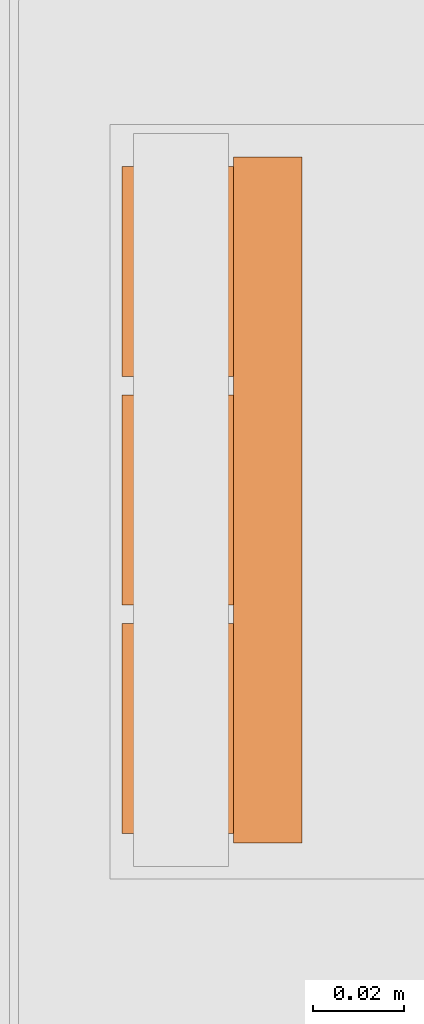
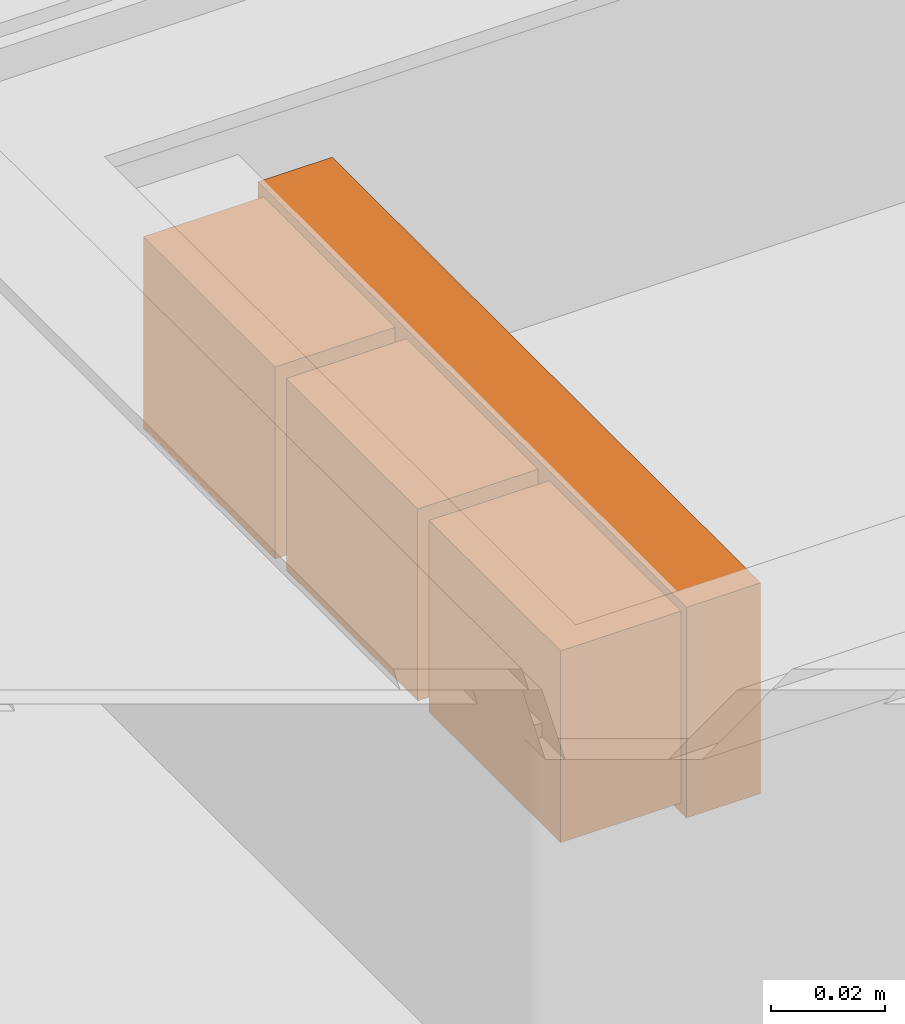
# One storey, part 75 of 87: 1 proxy.
"""IFC2X3 building model written with IfcOpenShell, lengths in millimetres."""

import ifcopenshell
import ifcopenshell.guid

model = None  # the IFC model being written
_history = None  # IfcOwnerHistory: only IFC2X3 demands one
_inside = {}  # id of a spatial element -> (the spatial element, [elements in it])
_under = {}  # id of a project, library or spatial element -> (it, [spatial elements below it])
_declared = {}  # id of a project -> (the project, [libraries it declares])
_typed = {}  # id of a type object -> (the type object, [elements of that type])
_made_of = {}  # id of a material, layer set ... -> (it, [elements and type objects made of it])


def new_model(schema):
    """Start an empty IFC model of exactly this schema.

    Asked for "IFC4X3", IfcOpenShell would pick the latest addendum, in which some entities
    have other attributes; the version numbers below select the first issue.
    IFC2X3 requires an IfcOwnerHistory on every rooted entity: one is made here for all.
    """
    global model, _history
    if schema == "IFC4X3":
        model = ifcopenshell.file(schema_version=(4, 3, 0, 0))
    else:
        model = ifcopenshell.file(schema=schema)
    _inside.clear()
    _under.clear()
    _declared.clear()
    _typed.clear()
    _made_of.clear()
    _history = None
    if model.schema == "IFC2X3":
        org = make("IfcOrganization", Name="unknown")
        user = make(
            "IfcPersonAndOrganization",
            ThePerson=make("IfcPerson", FamilyName="unknown"),
            TheOrganization=org,
        )
        app = make(
            "IfcApplication",
            ApplicationDeveloper=org,
            Version="unknown",
            ApplicationFullName="unknown",
            ApplicationIdentifier="unknown",
        )
        _history = make(
            "IfcOwnerHistory",
            OwningUser=user,
            OwningApplication=app,
            ChangeAction="ADDED",
            CreationDate=0,
        )
    return model


def make(cls, **values):
    """One entity of the class cls with the attributes given. An attribute that is None is left unset."""
    return model.create_entity(
        cls, **{name: value for name, value in values.items() if value is not None}
    )


def entity(cls, *values):
    """Any entity or typed value of the class cls, its attributes in the order of the schema. None: left unset."""
    e = model.create_entity(cls)
    for i, value in enumerate(values):
        if value is not None:
            e[i] = value
    return e


def rooted(cls, **values):
    """An entity with a GlobalId (a new one), such as an element, a storey or a relation."""
    return make(cls, GlobalId=ifcopenshell.guid.new(), OwnerHistory=_history, **values)


def si_unit(unit_type, name, prefix=None):
    """IfcSIUnit, for example si_unit("LENGTHUNIT", "METRE", prefix="MILLI")."""
    return make("IfcSIUnit", UnitType=unit_type, Prefix=prefix, Name=name)


def converted_unit(unit_type, name, factor, base, dimensions=None, offset=None):
    """IfcConversionBasedUnit, such as the inch: factor (a typed value) times the base unit."""
    return make(
        "IfcConversionBasedUnit"
        if offset is None
        else "IfcConversionBasedUnitWithOffset",
        ConversionOffset=offset,
        Dimensions=None
        if dimensions is None
        else entity("IfcDimensionalExponents", *dimensions),
        UnitType=unit_type,
        Name=name,
        ConversionFactor=make(
            "IfcMeasureWithUnit", ValueComponent=factor, UnitComponent=base
        ),
    )


def derived_unit(unit_type, elements):
    """IfcDerivedUnit: a product of units, each with its exponent."""
    return make(
        "IfcDerivedUnit",
        Elements=[
            make("IfcDerivedUnitElement", Unit=unit, Exponent=power)
            for unit, power in elements
        ],
        UnitType=unit_type,
    )


def assignment(units):
    """IfcUnitAssignment: the units of a project."""
    return None if units is None else make("IfcUnitAssignment", Units=units)


def point(xyz):
    """IfcCartesianPoint."""
    return None if xyz is None else make("IfcCartesianPoint", Coordinates=xyz)


def direction(xyz):
    """IfcDirection."""
    return None if xyz is None else make("IfcDirection", DirectionRatios=xyz)


def frame(location, z_axis=None, x_axis=None):
    """IfcAxis2Placement3D, a coordinate frame: its origin and axes. An axis left out is left unset."""
    return make(
        "IfcAxis2Placement3D",
        Location=point(location),
        Axis=direction(z_axis),
        RefDirection=direction(x_axis),
    )


def origin():
    """The frame at (0, 0, 0) with its axes left unset."""
    return frame((0.0, 0.0, 0.0))


def place(relative_to, where):
    """IfcLocalPlacement: puts the frame where relative to a parent placement (None: the world)."""
    return make(
        "IfcLocalPlacement", PlacementRelTo=relative_to, RelativePlacement=where
    )


def context(
    kind, dimensions, precision=None, world=None, true_north=None, identifier=None
):
    """IfcGeometricRepresentationContext, for example the 3D "Model" context."""
    return make(
        "IfcGeometricRepresentationContext",
        ContextIdentifier=identifier,
        ContextType=kind,
        CoordinateSpaceDimension=dimensions,
        Precision=precision,
        WorldCoordinateSystem=world,
        TrueNorth=true_north,
    )


def subcontext(parent, identifier, kind, view, scale=None):
    """IfcGeometricRepresentationSubContext, for example "Body" below "Model"."""
    return make(
        "IfcGeometricRepresentationSubContext",
        ContextIdentifier=identifier,
        ContextType=kind,
        ParentContext=parent,
        TargetScale=scale,
        TargetView=view,
    )


def project(units=None, contexts=None):
    """IfcProject with its units and contexts."""
    return rooted(
        "IfcProject",
        Name="project",
        RepresentationContexts=contexts,
        UnitsInContext=assignment(units),
    )


def spatial(cls, under=None, at=None, **own):
    """A site, building, storey or space (cls), placed at a placement, below another one or the project."""
    s = rooted(cls, ObjectPlacement=at, **own)
    if under is not None:
        _under.setdefault(under.id(), (under, []))[1].append(s)
    return s


def faces_of(points, faces, orient=None, outer=None):
    """IfcFace entities. A face is a list of loops; a loop is a list of indices into points, from 0.

    orient and outer hold one flag for each loop. By default every Orientation is true, the
    first loop of a face is its IfcFaceOuterBound and the others are IfcFaceBound.
    """
    made = []
    for i, loops in enumerate(faces):
        bounds = []
        for j, loop in enumerate(loops):
            is_outer = j == 0 if outer is None else outer[i][j]
            bounds.append(
                make(
                    "IfcFaceOuterBound" if is_outer else "IfcFaceBound",
                    Bound=make("IfcPolyLoop", Polygon=[points[k] for k in loop]),
                    Orientation=True if orient is None else orient[i][j],
                )
            )
        made.append(make("IfcFace", Bounds=bounds))
    return made


def faceted_brep(points, faces, orient=None, outer=None, voids=None):
    """IfcFacetedBrep: a solid bounded by flat faces; with voids (closed shells), ...WithVoids."""
    shared = [point(p) for p in points]
    hull = make("IfcClosedShell", CfsFaces=faces_of(shared, faces, orient, outer))
    if voids is None:
        return make("IfcFacetedBrep", Outer=hull)
    return make(
        "IfcFacetedBrepWithVoids",
        Outer=hull,
        Voids=[
            make(cls, CfsFaces=faces_of(shared, fs, o, b)) for cls, fs, o, b in voids
        ],
    )


def shape(context_of_items, identifier, shape_type, items):
    """IfcShapeRepresentation: the items that make up one representation, for example the "Body"."""
    return make(
        "IfcShapeRepresentation",
        ContextOfItems=context_of_items,
        RepresentationIdentifier=identifier,
        RepresentationType=shape_type,
        Items=items,
    )


def source(mapping_origin, context_of_items, identifier, shape_type, items):
    """IfcRepresentationMap: a shape defined once, which mapped items show again and again."""
    return make(
        "IfcRepresentationMap",
        MappingOrigin=mapping_origin,
        MappedRepresentation=shape(context_of_items, identifier, shape_type, items),
    )


def transform(
    local_origin,
    x_axis=None,
    y_axis=None,
    z_axis=None,
    scale=None,
    scale2=None,
    scale3=None,
    uniform=True,
):
    """IfcCartesianTransformationOperator3D, or its non-uniform kind. x_axis, y_axis, z_axis: its Axis1, 2, 3."""
    if uniform:
        return make(
            "IfcCartesianTransformationOperator3D",
            Axis1=direction(x_axis),
            Axis2=direction(y_axis),
            LocalOrigin=point(local_origin),
            Scale=scale,
            Axis3=direction(z_axis),
        )
    return make(
        "IfcCartesianTransformationOperator3DnonUniform",
        Axis1=direction(x_axis),
        Axis2=direction(y_axis),
        LocalOrigin=point(local_origin),
        Scale=scale,
        Axis3=direction(z_axis),
        Scale2=scale2,
        Scale3=scale3,
    )


def mapped(mapping_source, mapping_target):
    """IfcMappedItem: shows the shape of a source again, moved by a transform."""
    return make(
        "IfcMappedItem", MappingSource=mapping_source, MappingTarget=mapping_target
    )


def made_of(thing, what):
    """Note that an element or type object is made of a material, layer set ...; save() writes the relation."""
    if what is not None:
        _made_of.setdefault(what.id(), (what, []))[1].append(thing)
    return thing


def type_object(cls, material=None, **own):
    """A type object (cls), such as IfcWallType, which elements share."""
    return made_of(rooted(cls, **own), material)


def type_shapes(of_type, sources):
    """Give a type object the sources (RepresentationMaps) that its elements show as mapped items."""
    of_type.RepresentationMaps = sources


def element(
    cls,
    number,
    at=None,
    inside=None,
    cuts=None,
    type_object=None,
    material=None,
    context=None,
    identifier="Body",
    shape_type=None,
    held_by="IfcProductDefinitionShape",
    body=None,
    shapes=None,
    **own,
):
    """One element of the class cls, such as IfcWall. Its Tag is "e" and its number.

    at: its placement. inside: the storey or other place that contains it. cuts: it is an
    opening in that element (IfcRelVoidsElement). A single representation is given by context,
    identifier, shape_type and body (its items); several are given by shapes. held_by: the class
    of the entity that holds the representations. save() writes the other relations.
    """
    e = rooted(cls, Tag="e%d" % number, ObjectPlacement=at, **own)
    if body is not None:
        shapes = [shape(context, identifier, shape_type, body)]
    if shapes is not None:
        e.Representation = make(held_by, Representations=shapes)
    if inside is not None:
        _inside.setdefault(inside.id(), (inside, []))[1].append(e)
    if cuts is not None:
        rooted(
            "IfcRelVoidsElement", RelatingBuildingElement=cuts, RelatedOpeningElement=e
        )
    if type_object is not None:
        _typed.setdefault(type_object.id(), (type_object, []))[1].append(e)
    return made_of(e, material)


def aggregate(whole, parts):
    """IfcRelAggregates: a whole, such as a stair, and the parts it consists of."""
    return rooted("IfcRelAggregates", RelatingObject=whole, RelatedObjects=parts)


def save(model, path):
    """Write the relations noted so far, then the file.

    IfcRelAggregates (storeys below a building ...), IfcRelContainedInSpatialStructure (elements
    in a storey), IfcRelDefinesByType, IfcRelAssociatesMaterial and IfcRelDeclares: one each for
    every whole, place, type object, material and project.
    """
    for whole, parts in _under.values():
        aggregate(whole, parts)
    for where, things in _inside.values():
        rooted(
            "IfcRelContainedInSpatialStructure",
            RelatedElements=things,
            RelatingStructure=where,
        )
    for kind, things in _typed.values():
        rooted("IfcRelDefinesByType", RelatedObjects=things, RelatingType=kind)
    for what, things in _made_of.values():
        rooted("IfcRelAssociatesMaterial", RelatedObjects=things, RelatingMaterial=what)
    for by, libraries in _declared.values():
        rooted("IfcRelDeclares", RelatingContext=by, RelatedDefinitions=libraries)
    model.write(path)


model = new_model("IFC2X3")

# Units and contexts
model_context = context("Model", 3, precision=0.01, world=origin(), true_north=direction((6.12303176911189e-17, 1.0)))
body_context = subcontext(model_context, "Body", "Model", "MODEL_VIEW")
ifc_project = project(units=[si_unit("LENGTHUNIT", "METRE", prefix="MILLI"), si_unit("AREAUNIT", "SQUARE_METRE"), si_unit("VOLUMEUNIT", "CUBIC_METRE"), converted_unit("PLANEANGLEUNIT", "DEGREE", entity("IfcRatioMeasure", 0.0174532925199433), si_unit("PLANEANGLEUNIT", "RADIAN"), dimensions=[0, 0, 0, 0, 0, 0, 0]), si_unit("MASSUNIT", "GRAM", prefix="KILO"), derived_unit("MASSDENSITYUNIT", [(si_unit("MASSUNIT", "GRAM", prefix="KILO"), 1), (si_unit("LENGTHUNIT", "METRE"), -3)]), si_unit("TIMEUNIT", "SECOND"), si_unit("FREQUENCYUNIT", "HERTZ"), si_unit("THERMODYNAMICTEMPERATUREUNIT", "DEGREE_CELSIUS"), derived_unit("THERMALTRANSMITTANCEUNIT", [(si_unit("MASSUNIT", "GRAM", prefix="KILO"), 1), (si_unit("THERMODYNAMICTEMPERATUREUNIT", "KELVIN"), -1), (si_unit("TIMEUNIT", "SECOND"), -3)]), derived_unit("VOLUMETRICFLOWRATEUNIT", [(si_unit("LENGTHUNIT", "METRE"), 3), (si_unit("TIMEUNIT", "SECOND"), -1)]), si_unit("ELECTRICCURRENTUNIT", "AMPERE"), si_unit("ELECTRICVOLTAGEUNIT", "VOLT"), si_unit("POWERUNIT", "WATT"), si_unit("FORCEUNIT", "NEWTON", prefix="KILO"), si_unit("ILLUMINANCEUNIT", "LUX"), si_unit("LUMINOUSFLUXUNIT", "LUMEN"), si_unit("LUMINOUSINTENSITYUNIT", "CANDELA"), derived_unit("USERDEFINED", [(si_unit("MASSUNIT", "GRAM", prefix="KILO"), -1), (si_unit("LENGTHUNIT", "METRE"), -2), (si_unit("TIMEUNIT", "SECOND"), 3), (si_unit("LUMINOUSFLUXUNIT", "LUMEN"), 1)]), derived_unit("LINEARVELOCITYUNIT", [(si_unit("LENGTHUNIT", "METRE"), 1), (si_unit("TIMEUNIT", "SECOND"), -1)]), si_unit("PRESSUREUNIT", "PASCAL"), derived_unit("USERDEFINED", [(si_unit("LENGTHUNIT", "METRE"), -2), (si_unit("MASSUNIT", "GRAM", prefix="KILO"), 1), (si_unit("TIMEUNIT", "SECOND"), -2)])], contexts=[model_context])

# Site, building, storey
site_placement = place(None, origin())
site = spatial("IfcSite", under=ifc_project, at=site_placement, Name="Default", CompositionType="ELEMENT")
building_placement = place(site_placement, origin())
building = spatial("IfcBuilding", under=site, at=building_placement, Name="Наименование здания", CompositionType="ELEMENT")
storey_placement = place(building_placement, origin())
storey = spatial("IfcBuildingStorey", under=building, at=storey_placement, Name="Этаж 01", CompositionType="ELEMENT", Elevation=0.0)

# Proxy
building_element_proxy_type = type_object("IfcBuildingElementProxyType", Name="Белый", PredefinedType="NOTDEFINED")
shared_shape = source(origin(), body_context, "Body", "Brep", [
    faceted_brep([(56.4897193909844, -10.5732864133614, 0.0), (59.5230890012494, -10.5732864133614, -3.03336961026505), (62.5564586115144, -10.5732864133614, 0.0), (59.5230890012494, -10.5732864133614, 3.03336961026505), (37.4435413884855, -10.5732864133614, 0.0), (40.4769109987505, -10.5732864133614, -3.03336961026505), (43.5102806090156, -10.5732864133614, 0.0), (40.4769109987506, -10.5732864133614, 3.03336961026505), (59.5230890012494, -24.2999999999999, 3.03336961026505), (27.0, -24.2999999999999, 20.5000000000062), (40.4769109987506, -24.2999999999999, 3.03336961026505), (43.5102806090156, -24.2999999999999, 0.0), (73.0, -24.2999999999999, 20.5000000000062), (56.4897193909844, -24.2999999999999, 0.0), (62.5564586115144, -24.2999999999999, 0.0), (73.0, -24.2999999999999, -20.5000000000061), (59.5230890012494, -24.2999999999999, -3.03336961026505), (40.4769109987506, -24.2999999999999, -3.03336961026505), (27.0, -24.2999999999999, -20.5000000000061), (37.4435413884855, -24.2999999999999, 0.0), (73.0, 0.0, -20.5000000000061), (27.0, 0.0, -20.5000000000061), (27.0, 0.0, 20.5000000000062), (73.0, 0.0, 20.5000000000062)], [[[0, 1, 2, 3]], [[4, 5, 6, 7]], [[8, 9, 10]], [[8, 10, 11]], [[9, 8, 12]], [[8, 11, 13]], [[12, 8, 14]], [[14, 15, 12]], [[14, 16, 15]], [[11, 16, 13]], [[16, 11, 17]], [[17, 18, 16]], [[15, 16, 18]], [[19, 18, 17]], [[18, 19, 9]], [[10, 9, 19]], [[20, 21, 22, 23]], [[9, 12, 23, 22]], [[12, 15, 20, 23]], [[15, 18, 21, 20]], [[18, 9, 22, 21]], [[17, 5, 4, 19]], [[11, 6, 5, 17]], [[10, 7, 6, 11]], [[19, 4, 7, 10]], [[16, 1, 0, 13]], [[14, 2, 1, 16]], [[8, 3, 2, 14]], [[13, 0, 3, 8]]]),
    faceted_brep([(25.0, -39.2999999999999, 22.5000000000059), (37.1337260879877, -39.2999999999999, 15.31205393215), (41.0158322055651, -39.2999999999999, 17.868540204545), (33.9466036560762, -39.2999999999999, 11.9284729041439), (45.3832264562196, -39.2999999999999, 19.4598407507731), (50.0, -39.2999999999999, 20.0), (30.1036424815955, -39.2999999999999, 2.03345949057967), (30.0, -39.2999999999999, 0.0), (25.0, -39.2999999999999, -22.5000000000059), (75.0, -39.2999999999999, 22.5000000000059), (30.1036424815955, -39.2999999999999, -2.03345949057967), (33.9466036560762, -39.2999999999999, -11.9284729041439), (37.1337260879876, -39.2999999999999, -15.31205393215), (41.0158322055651, -39.2999999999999, -17.8685402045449), (45.3832264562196, -39.2999999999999, -19.4598407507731), (50.0, -39.2999999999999, -20.0), (75.0, -39.2999999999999, -22.5000000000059), (54.6167735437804, -39.2999999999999, -19.4598407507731), (58.9841677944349, -39.2999999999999, -17.8685402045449), (62.8662739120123, -39.2999999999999, -15.31205393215), (66.0533963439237, -39.2999999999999, -11.9284729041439), (69.8963575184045, -39.2999999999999, -2.03345949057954), (70.0, -39.2999999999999, 0.0), (54.6167735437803, -39.2999999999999, 19.4598407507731), (58.9841677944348, -39.2999999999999, 17.868540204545), (62.8662739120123, -39.2999999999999, 15.31205393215), (66.0533963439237, -39.2999999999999, 11.9284729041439), (69.8963575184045, -39.2999999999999, 2.03345949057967), (66.0533963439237, -39.2999999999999, -2.03345949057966), (33.9466036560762, -39.2999999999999, -2.03345949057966), (33.9466036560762, -39.2999999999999, 2.03345949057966), (66.0533963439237, -39.2999999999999, 2.03345949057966), (25.0, -24.2999999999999, -22.5000000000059), (37.1337260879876, -24.2999999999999, -15.31205393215), (41.0158322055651, -24.2999999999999, -17.8685402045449), (33.9466036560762, -24.2999999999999, -11.9284729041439), (45.3832264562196, -24.2999999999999, -19.4598407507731), (50.0, -24.2999999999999, -20.0), (30.1036424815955, -24.2999999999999, -2.03345949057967), (30.0, -24.2999999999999, 0.0), (25.0, -24.2999999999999, 22.5000000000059), (75.0, -24.2999999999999, -22.5000000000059), (30.1036424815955, -24.2999999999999, 2.03345949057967), (33.9466036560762, -24.2999999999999, 11.9284729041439), (37.1337260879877, -24.2999999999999, 15.31205393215), (41.0158322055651, -24.2999999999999, 17.868540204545), (45.3832264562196, -24.2999999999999, 19.4598407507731), (50.0, -24.2999999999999, 20.0), (75.0, -24.2999999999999, 22.5000000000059), (54.6167735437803, -24.2999999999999, 19.4598407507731), (58.9841677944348, -24.2999999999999, 17.868540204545), (62.8662739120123, -24.2999999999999, 15.31205393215), (66.0533963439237, -24.2999999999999, 11.9284729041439), (69.8963575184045, -24.2999999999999, 2.03345949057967), (70.0, -24.2999999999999, 0.0), (54.6167735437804, -24.2999999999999, -19.4598407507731), (58.9841677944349, -24.2999999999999, -17.8685402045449), (62.8662739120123, -24.2999999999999, -15.31205393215), (66.0533963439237, -24.2999999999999, -11.9284729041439), (69.8963575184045, -24.2999999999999, -2.03345949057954), (66.0533963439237, -24.2999999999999, 2.03345949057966), (33.9466036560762, -24.2999999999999, 2.03345949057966), (33.9466036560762, -24.2999999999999, -2.03345949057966), (66.0533963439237, -24.2999999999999, -2.03345949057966)], [[[0, 1, 2]], [[1, 0, 3]], [[2, 4, 0]], [[0, 4, 5]], [[6, 3, 0]], [[7, 6, 0]], [[0, 8, 7]], [[5, 9, 0]], [[10, 7, 8]], [[11, 10, 8]], [[11, 8, 12]], [[8, 13, 12]], [[13, 8, 14]], [[15, 14, 8]], [[8, 16, 15]], [[17, 15, 16]], [[18, 17, 16]], [[16, 19, 18]], [[19, 16, 20]], [[20, 16, 21]], [[22, 21, 16]], [[22, 16, 9]], [[5, 23, 9]], [[24, 9, 23]], [[9, 24, 25]], [[25, 26, 9]], [[26, 27, 9]], [[9, 27, 22]], [[28, 20, 21]], [[10, 11, 29]], [[30, 3, 6]], [[27, 26, 31]], [[32, 33, 34]], [[33, 32, 35]], [[34, 36, 32]], [[32, 36, 37]], [[38, 35, 32]], [[39, 38, 32]], [[32, 40, 39]], [[37, 41, 32]], [[42, 39, 40]], [[43, 42, 40]], [[43, 40, 44]], [[40, 45, 44]], [[45, 40, 46]], [[47, 46, 40]], [[40, 48, 47]], [[49, 47, 48]], [[50, 49, 48]], [[48, 51, 50]], [[51, 48, 52]], [[52, 48, 53]], [[54, 53, 48]], [[54, 48, 41]], [[37, 55, 41]], [[56, 41, 55]], [[41, 56, 57]], [[57, 58, 41]], [[58, 59, 41]], [[41, 59, 54]], [[60, 52, 53]], [[42, 43, 61]], [[62, 35, 38]], [[59, 58, 63]], [[0, 9, 48, 40]], [[9, 16, 41, 48]], [[16, 8, 32, 41]], [[8, 0, 40, 32]], [[1, 3, 43, 44]], [[44, 45, 2, 1]], [[2, 45, 46, 4]], [[47, 5, 4, 46]], [[24, 23, 49, 50]], [[25, 24, 50, 51]], [[26, 25, 51, 52]], [[23, 5, 47, 49]], [[3, 30, 61, 43]], [[29, 11, 35, 62]], [[30, 6, 42, 61]], [[27, 31, 60, 53]], [[39, 7, 10, 38]], [[42, 6, 7, 39]], [[10, 29, 62, 38]], [[28, 21, 59, 63]], [[19, 20, 58, 57]], [[57, 56, 18, 19]], [[18, 56, 55, 17]], [[37, 15, 17, 55]], [[13, 14, 36, 34]], [[34, 33, 12, 13]], [[12, 33, 35, 11]], [[14, 15, 37, 36]], [[20, 28, 63, 58]], [[31, 26, 52, 60]], [[54, 22, 27, 53]], [[59, 21, 22, 54]]]),
    faceted_brep([(-56.4897193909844, -10.5732864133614, 0.0), (-59.5230890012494, -10.5732864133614, 3.03336961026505), (-62.5564586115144, -10.5732864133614, 0.0), (-59.5230890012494, -10.5732864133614, -3.03336961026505), (-37.4435413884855, -10.5732864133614, 0.0), (-40.4769109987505, -10.5732864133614, 3.03336961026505), (-43.5102806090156, -10.5732864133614, 0.0), (-40.4769109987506, -10.5732864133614, -3.03336961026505), (-40.4769109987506, -24.2999999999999, 3.03336961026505), (-59.5230890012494, -24.2999999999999, 3.03336961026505), (-43.5102806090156, -24.2999999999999, 0.0), (-27.0, -24.2999999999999, 20.5000000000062), (-37.4435413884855, -24.2999999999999, 0.0), (-27.0, -24.2999999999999, -20.5000000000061), (-40.4769109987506, -24.2999999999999, -3.03336961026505), (-59.5230890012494, -24.2999999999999, -3.03336961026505), (-73.0, -24.2999999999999, -20.5000000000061), (-62.5564586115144, -24.2999999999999, 0.0), (-56.4897193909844, -24.2999999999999, 0.0), (-73.0, -24.2999999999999, 20.5000000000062), (-73.0, 0.0, -20.5000000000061), (-73.0, 0.0, 20.5000000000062), (-27.0, 0.0, 20.5000000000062), (-27.0, 0.0, -20.5000000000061)], [[[0, 1, 2, 3]], [[4, 5, 6, 7]], [[8, 9, 10]], [[9, 8, 11]], [[11, 8, 12]], [[12, 13, 11]], [[13, 12, 14]], [[15, 13, 14]], [[14, 10, 15]], [[16, 13, 15]], [[15, 17, 16]], [[15, 10, 18]], [[9, 19, 17]], [[16, 17, 19]], [[9, 11, 19]], [[10, 9, 18]], [[20, 21, 22, 23]], [[19, 11, 22, 21]], [[16, 19, 21, 20]], [[13, 16, 20, 23]], [[11, 13, 23, 22]], [[14, 7, 6, 10]], [[12, 4, 7, 14]], [[8, 5, 4, 12]], [[10, 6, 5, 8]], [[15, 3, 2, 17]], [[18, 0, 3, 15]], [[9, 1, 0, 18]], [[17, 2, 1, 9]]]),
    faceted_brep([(-25.0, -39.2999999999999, 22.5000000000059), (-33.9466036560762, -39.2999999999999, 11.9284729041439), (-30.1036424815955, -39.2999999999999, 2.03345949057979), (-37.1337260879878, -39.2999999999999, 15.3120539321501), (-30.0, -39.2999999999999, 0.0), (-41.0158322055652, -39.2999999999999, 17.868540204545), (-45.3832264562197, -39.2999999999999, 19.4598407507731), (-50.0, -39.2999999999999, 20.0), (-75.0, -39.2999999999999, 22.5000000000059), (-25.0, -39.2999999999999, -22.5000000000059), (-54.6167735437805, -39.2999999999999, 19.4598407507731), (-58.984167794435, -39.2999999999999, 17.8685402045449), (-62.8662739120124, -39.2999999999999, 15.31205393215), (-66.0533963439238, -39.2999999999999, 11.9284729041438), (-69.8963575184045, -39.2999999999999, 2.03345949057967), (-70.0, -39.2999999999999, 0.0), (-75.0, -39.2999999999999, -22.5000000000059), (-69.8963575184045, -39.2999999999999, -2.03345949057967), (-66.0533963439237, -39.2999999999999, -11.9284729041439), (-62.8662739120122, -39.2999999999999, -15.3120539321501), (-58.9841677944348, -39.2999999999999, -17.868540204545), (-54.6167735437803, -39.2999999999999, -19.4598407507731), (-50.0, -39.2999999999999, -20.0), (-30.1036424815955, -39.2999999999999, -2.03345949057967), (-33.9466036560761, -39.2999999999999, -11.9284729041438), (-37.1337260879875, -39.2999999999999, -15.3120539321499), (-41.015832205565, -39.2999999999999, -17.8685402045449), (-45.3832264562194, -39.2999999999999, -19.4598407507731), (-66.0533963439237, -39.2999999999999, -2.03345949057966), (-66.0533963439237, -39.2999999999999, 2.03345949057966), (-33.9466036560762, -39.2999999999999, 2.03345949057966), (-33.9466036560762, -39.2999999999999, -2.03345949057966), (-75.0, -24.2999999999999, 22.5000000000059), (-66.0533963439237, -24.2999999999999, 11.9284729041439), (-69.8963575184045, -24.2999999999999, 2.03345949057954), (-62.8662739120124, -24.2999999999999, 15.31205393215), (-70.0, -24.2999999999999, 0.0), (-58.984167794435, -24.2999999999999, 17.8685402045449), (-54.6167735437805, -24.2999999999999, 19.4598407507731), (-50.0, -24.2999999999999, 20.0), (-25.0, -24.2999999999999, 22.5000000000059), (-75.0, -24.2999999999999, -22.5000000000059), (-45.3832264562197, -24.2999999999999, 19.4598407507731), (-41.0158322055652, -24.2999999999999, 17.868540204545), (-37.1337260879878, -24.2999999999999, 15.3120539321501), (-33.9466036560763, -24.2999999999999, 11.928472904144), (-30.1036424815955, -24.2999999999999, 2.03345949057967), (-30.0, -24.2999999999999, 0.0), (-25.0, -24.2999999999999, -22.5000000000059), (-30.1036424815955, -24.2999999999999, -2.03345949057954), (-33.9466036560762, -24.2999999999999, -11.9284729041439), (-37.1337260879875, -24.2999999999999, -15.3120539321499), (-41.015832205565, -24.2999999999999, -17.8685402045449), (-45.3832264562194, -24.2999999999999, -19.4598407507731), (-50.0, -24.2999999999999, -20.0), (-69.8963575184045, -24.2999999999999, -2.03345949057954), (-66.0533963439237, -24.2999999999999, -11.928472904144), (-62.8662739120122, -24.2999999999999, -15.3120539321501), (-58.9841677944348, -24.2999999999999, -17.868540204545), (-54.6167735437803, -24.2999999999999, -19.4598407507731), (-33.9466036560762, -24.2999999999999, -2.03345949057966), (-33.9466036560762, -24.2999999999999, 2.03345949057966), (-66.0533963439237, -24.2999999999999, 2.03345949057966), (-66.0533963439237, -24.2999999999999, -2.03345949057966)], [[[0, 1, 2]], [[1, 0, 3]], [[0, 2, 4]], [[5, 3, 0]], [[6, 5, 0]], [[7, 6, 0]], [[0, 8, 7]], [[4, 9, 0]], [[10, 7, 8]], [[11, 10, 8]], [[11, 8, 12]], [[8, 13, 12]], [[13, 8, 14]], [[15, 14, 8]], [[8, 16, 15]], [[17, 15, 16]], [[16, 18, 17]], [[18, 16, 19]], [[20, 19, 16]], [[20, 16, 21]], [[22, 21, 16]], [[22, 16, 9]], [[4, 23, 9]], [[24, 9, 23]], [[9, 24, 25]], [[25, 26, 9]], [[26, 27, 9]], [[9, 27, 22]], [[28, 17, 18]], [[14, 29, 13]], [[30, 2, 1]], [[24, 23, 31]], [[32, 33, 34]], [[33, 32, 35]], [[32, 34, 36]], [[37, 35, 32]], [[38, 37, 32]], [[39, 38, 32]], [[32, 40, 39]], [[36, 41, 32]], [[42, 39, 40]], [[43, 42, 40]], [[43, 40, 44]], [[40, 45, 44]], [[45, 40, 46]], [[47, 46, 40]], [[40, 48, 47]], [[49, 47, 48]], [[48, 50, 49]], [[50, 48, 51]], [[52, 51, 48]], [[52, 48, 53]], [[54, 53, 48]], [[54, 48, 41]], [[36, 55, 41]], [[56, 41, 55]], [[41, 56, 57]], [[57, 58, 41]], [[58, 59, 41]], [[41, 59, 54]], [[60, 49, 50]], [[46, 61, 45]], [[62, 34, 33]], [[56, 55, 63]], [[8, 0, 40, 32]], [[16, 8, 32, 41]], [[9, 16, 41, 48]], [[0, 9, 48, 40]], [[12, 13, 33, 35]], [[35, 37, 11, 12]], [[11, 37, 38, 10]], [[39, 7, 10, 38]], [[5, 6, 42, 43]], [[43, 44, 3, 5]], [[3, 44, 45, 1]], [[6, 7, 39, 42]], [[30, 1, 45, 61]], [[24, 31, 60, 50]], [[2, 30, 61, 46]], [[29, 14, 34, 62]], [[47, 4, 2, 46]], [[49, 23, 4, 47]], [[31, 23, 49, 60]], [[17, 28, 63, 55]], [[25, 24, 50, 51]], [[51, 52, 26, 25]], [[26, 52, 53, 27]], [[54, 22, 27, 53]], [[20, 21, 59, 58]], [[19, 20, 58, 57]], [[18, 19, 57, 56]], [[21, 22, 54, 59]], [[28, 18, 56, 63]], [[13, 29, 62, 33]], [[36, 15, 17, 55]], [[34, 14, 15, 36]]]),
    faceted_brep([(-6.48971939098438, -10.5732864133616, 0.0), (-9.52308900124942, -10.5732864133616, 3.03336961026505), (-12.5564586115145, -10.5732864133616, 0.0), (-9.52308900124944, -10.5732864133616, -3.03336961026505), (9.52308900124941, -10.5732864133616, -3.03336961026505), (12.5564586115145, -10.5732864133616, 0.0), (9.52308900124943, -10.5732864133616, 3.03336961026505), (6.48971939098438, -10.5732864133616, 0.0), (16.0533963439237, -24.3000000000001, 2.03345949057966), (16.0533963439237, -24.3000000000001, 11.928472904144), (9.52308900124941, -24.3000000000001, 3.03336961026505), (12.5564586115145, -24.3000000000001, 0.0), (16.0533963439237, -24.3000000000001, -2.03345949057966), (20.0, -24.3000000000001, 0.0), (19.8963575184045, -24.3000000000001, 2.03345949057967), (12.8662739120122, -24.3000000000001, 15.3120539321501), (8.98416779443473, -24.3000000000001, 17.868540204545), (4.6167735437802, -24.3000000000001, 19.4598407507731), (0.0, -24.3000000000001, 20.0), (6.48971939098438, -24.3000000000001, 0.0), (-6.48971939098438, -24.3000000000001, 0.0), (-9.52308900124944, -24.3000000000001, 3.03336961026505), (-4.61677354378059, -24.3000000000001, 19.4598407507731), (-8.98416779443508, -24.3000000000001, 17.8685402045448), (-12.8662739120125, -24.3000000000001, 15.3120539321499), (-16.0533963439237, -24.3000000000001, 11.9284729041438), (-16.0533963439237, -24.3000000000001, 2.03345949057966), (-12.5564586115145, -24.3000000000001, 0.0), (-16.0533963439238, -24.3000000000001, -2.03345949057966), (-20.0, -24.3000000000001, 0.0), (-19.8963575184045, -24.3000000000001, 2.03345949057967), (-19.8963575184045, -24.3000000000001, -2.03345949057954), (-9.52308900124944, -24.3000000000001, -3.03336961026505), (-16.0533963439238, -24.3000000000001, -11.9284729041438), (-12.8662739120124, -24.3000000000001, -15.3120539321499), (-8.98416779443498, -24.3000000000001, -17.8685402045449), (-4.61677354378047, -24.3000000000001, -19.4598407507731), (0.0, -24.3000000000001, -20.0), (9.52308900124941, -24.3000000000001, -3.03336961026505), (4.61677354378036, -24.3000000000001, -19.4598407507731), (8.98416779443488, -24.3000000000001, -17.8685402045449), (12.8662739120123, -24.3000000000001, -15.31205393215), (16.0533963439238, -24.3000000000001, -11.9284729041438), (19.8963575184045, -24.3000000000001, -2.03345949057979), (-23.0, 0.0, -20.5000000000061), (-23.0, 0.0, 20.5000000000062), (23.0, 0.0, 20.5000000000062), (23.0, 0.0, -20.5000000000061), (-23.0, -24.3000000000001, 20.5000000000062), (23.0, -24.3000000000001, 20.5000000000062), (-23.0, -24.3000000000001, -20.5000000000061), (23.0, -24.3000000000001, -20.5000000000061), (25.0, -39.3, 22.5000000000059), (16.0533963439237, -39.3, 11.9284729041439), (19.8963575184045, -39.3, 2.03345949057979), (12.8662739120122, -39.3, 15.3120539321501), (20.0, -39.3, 0.0), (8.98416779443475, -39.3, 17.868540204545), (4.61677354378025, -39.3, 19.4598407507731), (0.0, -39.3, 20.0), (-25.0, -39.3, 22.5000000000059), (25.0, -39.3, -22.5000000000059), (-4.6167735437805, -39.3, 19.4598407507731), (-8.98416779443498, -39.3, 17.8685402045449), (-12.8662739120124, -39.3, 15.31205393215), (-16.0533963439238, -39.3, 11.9284729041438), (-19.8963575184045, -39.3, 2.03345949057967), (-20.0, -39.3, 0.0), (-25.0, -39.3, -22.5000000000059), (-19.8963575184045, -39.3, -2.03345949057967), (-16.0533963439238, -39.3, -11.9284729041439), (-12.8662739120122, -39.3, -15.3120539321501), (-8.98416779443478, -39.3, -17.868540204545), (-4.61677354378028, -39.3, -19.4598407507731), (0.0, -39.3, -20.0), (19.8963575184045, -39.3, -2.03345949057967), (16.0533963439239, -39.3, -11.9284729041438), (12.8662739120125, -39.3, -15.3120539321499), (8.98416779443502, -39.3, -17.8685402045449), (4.61677354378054, -39.3, -19.4598407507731), (-16.0533963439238, -39.3, -2.03345949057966), (-16.0533963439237, -39.3, 2.03345949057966), (16.0533963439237, -39.3, 2.03345949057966), (16.0533963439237, -39.3, -2.03345949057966), (-25.0, -24.3000000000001, 22.5000000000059), (-25.0, -24.3000000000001, -22.5000000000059), (25.0, -24.3000000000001, 22.5000000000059), (25.0, -24.3000000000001, -22.5000000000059)], [[[0, 1, 2, 3]], [[4, 5, 6, 7]], [[8, 9, 10]], [[8, 10, 11]], [[8, 11, 12]], [[13, 8, 12]], [[13, 14, 8]], [[9, 15, 10]], [[16, 10, 15]], [[16, 17, 10]], [[17, 18, 10]], [[10, 18, 19]], [[19, 18, 20]], [[20, 18, 21]], [[18, 22, 21]], [[22, 23, 21]], [[23, 24, 21]], [[25, 21, 24]], [[26, 21, 25]], [[27, 21, 26]], [[28, 27, 26]], [[26, 29, 28]], [[29, 26, 30]], [[28, 29, 31]], [[28, 32, 27]], [[33, 32, 28]], [[33, 34, 32]], [[35, 32, 34]], [[32, 35, 36]], [[36, 37, 32]], [[38, 19, 37]], [[39, 38, 37]], [[20, 37, 19]], [[32, 37, 20]], [[40, 38, 39]], [[38, 40, 41]], [[38, 41, 42]], [[12, 38, 42]], [[38, 12, 11]], [[13, 12, 43]], [[44, 45, 46, 47]], [[48, 49, 46, 45]], [[50, 48, 45, 44]], [[51, 50, 44, 47]], [[49, 51, 47, 46]], [[38, 4, 7, 19]], [[11, 5, 4, 38]], [[10, 6, 5, 11]], [[19, 7, 6, 10]], [[32, 3, 2, 27]], [[20, 0, 3, 32]], [[21, 1, 0, 20]], [[27, 2, 1, 21]], [[52, 53, 54]], [[53, 52, 55]], [[52, 54, 56]], [[57, 55, 52]], [[58, 57, 52]], [[59, 58, 52]], [[52, 60, 59]], [[56, 61, 52]], [[62, 59, 60]], [[63, 62, 60]], [[63, 60, 64]], [[60, 65, 64]], [[65, 60, 66]], [[67, 66, 60]], [[60, 68, 67]], [[69, 67, 68]], [[68, 70, 69]], [[70, 68, 71]], [[72, 71, 68]], [[72, 68, 73]], [[74, 73, 68]], [[74, 68, 61]], [[56, 75, 61]], [[76, 61, 75]], [[61, 76, 77]], [[77, 78, 61]], [[78, 79, 61]], [[61, 79, 74]], [[80, 69, 70]], [[66, 81, 65]], [[82, 54, 53]], [[76, 75, 83]], [[84, 48, 50]], [[48, 84, 49]], [[50, 85, 84]], [[86, 49, 84]], [[49, 86, 51]], [[87, 51, 86]], [[51, 87, 85]], [[85, 50, 51]], [[60, 52, 86, 84]], [[68, 60, 84, 85]], [[61, 68, 85, 87]], [[52, 61, 87, 86]], [[64, 65, 25, 24]], [[24, 23, 63, 64]], [[63, 23, 22, 62]], [[18, 59, 62, 22]], [[57, 58, 17, 16]], [[16, 15, 55, 57]], [[55, 15, 9, 53]], [[58, 59, 18, 17]], [[82, 53, 9, 8]], [[76, 83, 12, 42]], [[54, 82, 8, 14]], [[81, 66, 30, 26]], [[13, 56, 54, 14]], [[43, 75, 56, 13]], [[83, 75, 43, 12]], [[69, 80, 28, 31]], [[77, 76, 42, 41]], [[41, 40, 78, 77]], [[78, 40, 39, 79]], [[37, 74, 79, 39]], [[72, 73, 36, 35]], [[71, 72, 35, 34]], [[70, 71, 34, 33]], [[73, 74, 37, 36]], [[80, 70, 33, 28]], [[65, 81, 26, 25]], [[29, 67, 69, 31]], [[30, 66, 67, 29]]]),
])
type_shapes(building_element_proxy_type, [shared_shape])
proxy_placement = place(storey_placement, frame((-16956.5567368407, 6730.32537465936, -40.0), z_axis=(0.0, 0.0, 1.0), x_axis=(0.0, 1.0, 0.0)))
element("IfcBuildingElementProxy", 1, at=proxy_placement, inside=storey, type_object=building_element_proxy_type, Name="Электрические розетки, штекерные, с заземлением и со шторками, моноблок:Белый", ObjectType="Белый", context=body_context, shape_type="MappedRepresentation", body=[
    mapped(shared_shape, transform((0.0, 0.0, 0.0), scale=1.0)),
])

save(model, "model.ifc")
